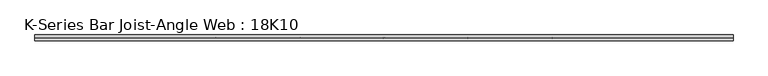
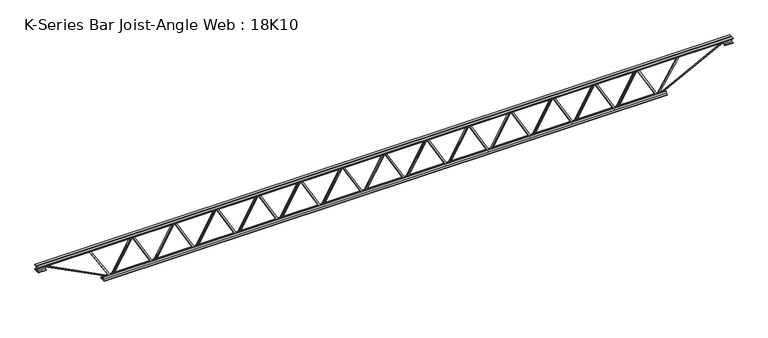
"""IFC4 building model written with IfcOpenShell, lengths in millimetres: beam geometry, K-Series Bar Joist-Angle Web : 18K10."""

from ifc_helpers import new_model, si_unit, frame, origin, place, context, project, spatial, polyline, outline, extrude, faceted_brep, source, transform, mapped, element, save


def k_series_bar_joist_angle_web_18k10_34ad709c(model_context):
    return source(origin(), model_context, "Body", "SolidModel", [
        extrude(outline(polyline([(-4.75, 4.7625), (-4.75, 0.0), (-17.45, 0.0), (-17.45, 4.7625), (-4.75, 4.7625)])), frame((2826.8572371, 0.0, -190.4), z_axis=(-0.4969814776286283, 0.0, 0.8677611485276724), x_axis=(0.0, -1.0, 0.0)), (0.0, 0.0, 1.0), 438.8304324),
        extrude(outline(polyline([(-225.325, 2858.7307692), (-206.275, 2858.7307692), (-206.275, 2857.9021635), (225.325, 2610.7175481), (225.325, 2592.4961538), (206.275, 2592.4961538), (206.275, 2599.6747596), (-225.325, 2846.859375), (-225.325, 2858.7307692)])), frame((0.0, 0.0, 0.0), z_axis=(0.0, 1.0, 0.0), x_axis=(0.0, 0.0, 1.0)), (0.0, 0.0, 1.0), 4.75),
        faceted_brep([(2338.9615385, 0.0, -206.275), (2338.9615385, 0.0, -225.325), (2338.9615385, -4.75, -225.325), (2338.9615385, -4.75, -206.275), (2339.7901442, 0.0, -206.275), (2586.9747596, 0.0, 225.325), (2605.1961538, 0.0, 225.325), (2605.1961538, 0.0, 206.275), (2598.0175481, 0.0, 206.275), (2350.8329327, 0.0, -225.325), (2350.8329327, -4.75, -225.325), (2370.8350706, -4.75, -190.4), (2366.7023581, -4.75, -188.0331257), (2584.7929548, -4.75, 192.7668743), (2588.9256673, -4.75, 190.4), (2598.0175481, -4.75, 206.275), (2605.1961538, -4.75, 206.275), (2605.1961538, -4.75, 225.325), (2586.9747596, -4.75, 225.325), (2339.7901442, -4.75, -206.275), (2588.9256673, -17.4625, 190.4), (2370.8350706, -17.4625, -190.4), (2366.7023581, -17.4625, -188.0331257), (2584.7929548, -17.4625, 192.7668743)], [[[0, 1, 2, 3]], [[1, 0, 4, 5, 6, 7, 8, 9]], [[2, 1, 9, 10]], [[3, 2, 10, 11, 12, 13, 14, 15, 16, 17, 18, 19]], [[0, 3, 19, 4]], [[9, 8, 15, 14, 20, 21, 11, 10]], [[5, 4, 19, 18]], [[7, 6, 17, 16]], [[8, 7, 16, 15]], [[6, 5, 18, 17]], [[21, 22, 12, 11]], [[20, 14, 13, 23]], [[22, 21, 20, 23]], [[12, 22, 23, 13]]]),
        extrude(outline(polyline([(-4.75, 4.7624999), (-4.75, 0.0), (-17.45, 0.0), (-17.45, 4.7624999), (-4.75, 4.7624999)])), frame((2307.0880064, 0.0, -190.4), z_axis=(-0.4969814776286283, 0.0, 0.8677611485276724), x_axis=(0.0, -1.0, 0.0)), (0.0, 0.0, 1.0), 438.8304324),
        extrude(outline(polyline([(-225.325, 2338.9615385), (-206.275, 2338.9615385), (-206.275, 2338.1329327), (225.325, 2090.9483173), (225.325, 2072.7269231), (206.275, 2072.7269231), (206.275, 2079.9055288), (-225.325, 2327.0901442), (-225.325, 2338.9615385)])), frame((0.0, 0.0, 0.0), z_axis=(0.0, 1.0, 0.0), x_axis=(0.0, 0.0, 1.0)), (0.0, 0.0, 1.0), 4.75),
        faceted_brep([(1819.1923077, 0.0, -206.275), (1819.1923077, 0.0, -225.325), (1819.1923077, -4.75, -225.325), (1819.1923077, -4.75, -206.275), (1820.0209134, 0.0, -206.275), (2067.2055288, 0.0, 225.325), (2085.4269231, 0.0, 225.325), (2085.4269231, 0.0, 206.275), (2078.2483173, 0.0, 206.275), (1831.063702, 0.0, -225.325), (1831.063702, -4.75, -225.325), (1851.0658398, -4.75, -190.4), (1846.9331273, -4.75, -188.0331257), (2065.023724, -4.75, 192.7668743), (2069.1564365, -4.75, 190.4), (2078.2483173, -4.75, 206.275), (2085.4269231, -4.75, 206.275), (2085.4269231, -4.75, 225.325), (2067.2055288, -4.75, 225.325), (1820.0209134, -4.75, -206.275), (2069.1564365, -17.4625, 190.4), (1851.0658398, -17.4625, -190.4), (1846.9331273, -17.4625, -188.0331257), (2065.023724, -17.4625, 192.7668743)], [[[0, 1, 2, 3]], [[1, 0, 4, 5, 6, 7, 8, 9]], [[2, 1, 9, 10]], [[3, 2, 10, 11, 12, 13, 14, 15, 16, 17, 18, 19]], [[0, 3, 19, 4]], [[9, 8, 15, 14, 20, 21, 11, 10]], [[5, 4, 19, 18]], [[7, 6, 17, 16]], [[8, 7, 16, 15]], [[6, 5, 18, 17]], [[21, 22, 12, 11]], [[20, 14, 13, 23]], [[22, 21, 20, 23]], [[12, 22, 23, 13]]]),
        extrude(outline(polyline([(-4.75, 4.7625), (-4.75, 0.0), (-17.45, 0.0), (-17.45, 4.7625), (-4.75, 4.7625)])), frame((1787.3187756, 0.0, -190.4), z_axis=(-0.4969814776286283, 0.0, 0.8677611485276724), x_axis=(0.0, -1.0, 0.0)), (0.0, 0.0, 1.0), 438.8304324),
        extrude(outline(polyline([(-225.325, 1819.1923077), (-206.275, 1819.1923077), (-206.275, 1818.363702), (225.325, 1571.1790866), (225.325, 1552.9576923), (206.275, 1552.9576923), (206.275, 1560.136298), (-225.325, 1807.3209134), (-225.325, 1819.1923077)])), frame((0.0, 0.0, 0.0), z_axis=(0.0, 1.0, 0.0), x_axis=(0.0, 0.0, 1.0)), (0.0, 0.0, 1.0), 4.75),
        faceted_brep([(1299.4230769, 0.0, -206.275), (1299.4230769, 0.0, -225.325), (1299.4230769, -4.75, -225.325), (1299.4230769, -4.75, -206.275), (1300.2516827, 0.0, -206.275), (1547.436298, 0.0, 225.325), (1565.6576923, 0.0, 225.325), (1565.6576923, 0.0, 206.275), (1558.4790866, 0.0, 206.275), (1311.2944712, 0.0, -225.325), (1311.2944712, -4.75, -225.325), (1331.296609, -4.75, -190.4), (1327.1638966, -4.75, -188.0331257), (1545.2544933, -4.75, 192.7668743), (1549.3872057, -4.75, 190.4), (1558.4790866, -4.75, 206.275), (1565.6576923, -4.75, 206.275), (1565.6576923, -4.75, 225.325), (1547.436298, -4.75, 225.325), (1300.2516827, -4.75, -206.275), (1549.3872057, -17.4625, 190.4), (1331.296609, -17.4625, -190.4), (1327.1638966, -17.4625, -188.0331257), (1545.2544933, -17.4625, 192.7668743)], [[[0, 1, 2, 3]], [[1, 0, 4, 5, 6, 7, 8, 9]], [[2, 1, 9, 10]], [[3, 2, 10, 11, 12, 13, 14, 15, 16, 17, 18, 19]], [[0, 3, 19, 4]], [[9, 8, 15, 14, 20, 21, 11, 10]], [[5, 4, 19, 18]], [[7, 6, 17, 16]], [[8, 7, 16, 15]], [[6, 5, 18, 17]], [[21, 22, 12, 11]], [[20, 14, 13, 23]], [[22, 21, 20, 23]], [[12, 22, 23, 13]]]),
        extrude(outline(polyline([(-4.75, 4.7625), (-4.75, 0.0), (-17.45, 0.0), (-17.45, 4.7625), (-4.75, 4.7625)])), frame((1267.5495448, 0.0, -190.4), z_axis=(-0.4969814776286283, 0.0, 0.8677611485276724), x_axis=(0.0, -1.0, 0.0)), (0.0, 0.0, 1.0), 438.8304324),
        extrude(outline(polyline([(-225.325, 1299.4230769), (-206.275, 1299.4230769), (-206.275, 1298.5944712), (225.325, 1051.4098558), (225.325, 1033.1884615), (206.275, 1033.1884615), (206.275, 1040.3670673), (-225.325, 1287.5516827), (-225.325, 1299.4230769)])), frame((0.0, 0.0, 0.0), z_axis=(0.0, 1.0, 0.0), x_axis=(0.0, 0.0, 1.0)), (0.0, 0.0, 1.0), 4.75),
        faceted_brep([(779.6538462, 0.0, -206.275), (779.6538462, 0.0, -225.325), (779.6538462, -4.75, -225.325), (779.6538462, -4.75, -206.275), (780.4824519, 0.0, -206.275), (1027.6670673, 0.0, 225.325), (1045.8884615, 0.0, 225.325), (1045.8884615, 0.0, 206.275), (1038.7098558, 0.0, 206.275), (791.5252404, 0.0, -225.325), (791.5252404, -4.75, -225.325), (811.5273783, -4.75, -190.4), (807.3946658, -4.75, -188.0331257), (1025.4852625, -4.75, 192.7668743), (1029.617975, -4.75, 190.4), (1038.7098558, -4.75, 206.275), (1045.8884615, -4.75, 206.275), (1045.8884615, -4.75, 225.325), (1027.6670673, -4.75, 225.325), (780.4824519, -4.75, -206.275), (1029.617975, -17.4625, 190.4), (811.5273783, -17.4625, -190.4), (807.3946658, -17.4625, -188.0331257), (1025.4852625, -17.4625, 192.7668743)], [[[0, 1, 2, 3]], [[1, 0, 4, 5, 6, 7, 8, 9]], [[2, 1, 9, 10]], [[3, 2, 10, 11, 12, 13, 14, 15, 16, 17, 18, 19]], [[0, 3, 19, 4]], [[9, 8, 15, 14, 20, 21, 11, 10]], [[5, 4, 19, 18]], [[7, 6, 17, 16]], [[8, 7, 16, 15]], [[6, 5, 18, 17]], [[21, 22, 12, 11]], [[20, 14, 13, 23]], [[22, 21, 20, 23]], [[12, 22, 23, 13]]]),
        extrude(outline(polyline([(-4.75, 4.7624999), (-4.75, 0.0), (-17.45, 0.0), (-17.45, 4.7624999), (-4.75, 4.7624999)])), frame((747.7803141, 0.0, -190.4), z_axis=(-0.4969814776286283, 0.0, 0.8677611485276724), x_axis=(0.0, -1.0, 0.0)), (0.0, 0.0, 1.0), 438.8304324),
        extrude(outline(polyline([(-225.325, 779.6538462), (-206.275, 779.6538462), (-206.275, 778.8252404), (225.325, 531.640625), (225.325, 513.4192308), (206.275, 513.4192308), (206.275, 520.5978365), (-225.325, 767.7824519), (-225.325, 779.6538462)])), frame((0.0, 0.0, 0.0), z_axis=(0.0, 1.0, 0.0), x_axis=(0.0, 0.0, 1.0)), (0.0, 0.0, 1.0), 4.75),
        faceted_brep([(259.8846154, 0.0, -206.275), (259.8846154, 0.0, -225.325), (259.8846154, -4.75, -225.325), (259.8846154, -4.75, -206.275), (260.7132211, 0.0, -206.275), (507.8978365, 0.0, 225.325), (526.1192308, 0.0, 225.325), (526.1192308, 0.0, 206.275), (518.940625, 0.0, 206.275), (271.7560096, 0.0, -225.325), (271.7560096, -4.75, -225.325), (291.7581475, -4.75, -190.4), (287.625435, -4.75, -188.0331257), (505.7160317, -4.75, 192.7668743), (509.8487442, -4.75, 190.4), (518.940625, -4.75, 206.275), (526.1192308, -4.75, 206.275), (526.1192308, -4.75, 225.325), (507.8978365, -4.75, 225.325), (260.7132211, -4.75, -206.275), (509.8487442, -17.4625, 190.4), (291.7581475, -17.4625, -190.4), (287.625435, -17.4625, -188.0331257), (505.7160317, -17.4625, 192.7668743)], [[[0, 1, 2, 3]], [[1, 0, 4, 5, 6, 7, 8, 9]], [[2, 1, 9, 10]], [[3, 2, 10, 11, 12, 13, 14, 15, 16, 17, 18, 19]], [[0, 3, 19, 4]], [[9, 8, 15, 14, 20, 21, 11, 10]], [[5, 4, 19, 18]], [[7, 6, 17, 16]], [[8, 7, 16, 15]], [[6, 5, 18, 17]], [[21, 22, 12, 11]], [[20, 14, 13, 23]], [[22, 21, 20, 23]], [[12, 22, 23, 13]]]),
        extrude(outline(polyline([(-4.75, 4.7625), (-4.75, 0.0), (-17.45, 0.0), (-17.45, 4.7625), (-4.75, 4.7625)])), frame((228.0110833, 0.0, -190.4), z_axis=(-0.4969814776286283, 0.0, 0.8677611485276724), x_axis=(0.0, -1.0, 0.0)), (0.0, 0.0, 1.0), 438.8304324),
        extrude(outline(polyline([(-225.325, 259.8846154), (-206.275, 259.8846154), (-206.275, 259.0560096), (225.325, 11.8713943), (225.325, -6.35), (206.275, -6.35), (206.275, 0.8286057), (-225.325, 248.0132211), (-225.325, 259.8846154)])), frame((0.0, 0.0, 0.0), z_axis=(0.0, 1.0, 0.0), x_axis=(0.0, 0.0, 1.0)), (0.0, 0.0, 1.0), 4.75),
        faceted_brep([(-259.8846154, 0.0, -206.275), (-259.8846154, 0.0, -225.325), (-259.8846154, -4.75, -225.325), (-259.8846154, -4.75, -206.275), (-259.0560096, 0.0, -206.275), (-11.8713943, 0.0, 225.325), (6.35, 0.0, 225.325), (6.35, 0.0, 206.275), (-0.8286057, 0.0, 206.275), (-248.0132211, 0.0, -225.325), (-248.0132211, -4.75, -225.325), (-228.0110833, -4.75, -190.4), (-232.1437958, -4.75, -188.0331257), (-14.053199, -4.75, 192.7668743), (-9.9204866, -4.75, 190.4), (-0.8286057, -4.75, 206.275), (6.35, -4.75, 206.275), (6.35, -4.75, 225.325), (-11.8713943, -4.75, 225.325), (-259.0560096, -4.75, -206.275), (-9.9204866, -17.4625, 190.4), (-228.0110833, -17.4625, -190.4), (-232.1437958, -17.4625, -188.0331257), (-14.053199, -17.4625, 192.7668743)], [[[0, 1, 2, 3]], [[1, 0, 4, 5, 6, 7, 8, 9]], [[2, 1, 9, 10]], [[3, 2, 10, 11, 12, 13, 14, 15, 16, 17, 18, 19]], [[0, 3, 19, 4]], [[9, 8, 15, 14, 20, 21, 11, 10]], [[5, 4, 19, 18]], [[7, 6, 17, 16]], [[8, 7, 16, 15]], [[6, 5, 18, 17]], [[21, 22, 12, 11]], [[20, 14, 13, 23]], [[22, 21, 20, 23]], [[12, 22, 23, 13]]]),
        extrude(outline(polyline([(-4.75, 4.7625), (-4.75, 0.0), (-17.45, 0.0), (-17.45, 4.7625), (-4.75, 4.7625)])), frame((-291.7581475, 0.0, -190.4), z_axis=(-0.4969814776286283, 0.0, 0.8677611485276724), x_axis=(0.0, -1.0, 0.0)), (0.0, 0.0, 1.0), 438.8304324),
        extrude(outline(polyline([(-225.325, -259.8846154), (-206.275, -259.8846154), (-206.275, -260.7132211), (225.325, -507.8978365), (225.325, -526.1192308), (206.275, -526.1192308), (206.275, -518.940625), (-225.325, -271.7560096), (-225.325, -259.8846154)])), frame((0.0, 0.0, 0.0), z_axis=(0.0, 1.0, 0.0), x_axis=(0.0, 0.0, 1.0)), (0.0, 0.0, 1.0), 4.75),
        faceted_brep([(-779.6538462, 0.0, -206.275), (-779.6538462, 0.0, -225.325), (-779.6538462, -4.75, -225.325), (-779.6538462, -4.75, -206.275), (-778.8252404, 0.0, -206.275), (-531.640625, 0.0, 225.325), (-513.4192308, 0.0, 225.325), (-513.4192308, 0.0, 206.275), (-520.5978365, 0.0, 206.275), (-767.7824519, 0.0, -225.325), (-767.7824519, -4.75, -225.325), (-747.7803141, -4.75, -190.4), (-751.9130265, -4.75, -188.0331257), (-533.8224298, -4.75, 192.7668743), (-529.6897173, -4.75, 190.4), (-520.5978365, -4.75, 206.275), (-513.4192308, -4.75, 206.275), (-513.4192308, -4.75, 225.325), (-531.640625, -4.75, 225.325), (-778.8252404, -4.75, -206.275), (-529.6897173, -17.4625, 190.4), (-747.7803141, -17.4625, -190.4), (-751.9130265, -17.4625, -188.0331257), (-533.8224298, -17.4625, 192.7668743)], [[[0, 1, 2, 3]], [[1, 0, 4, 5, 6, 7, 8, 9]], [[2, 1, 9, 10]], [[3, 2, 10, 11, 12, 13, 14, 15, 16, 17, 18, 19]], [[0, 3, 19, 4]], [[9, 8, 15, 14, 20, 21, 11, 10]], [[5, 4, 19, 18]], [[7, 6, 17, 16]], [[8, 7, 16, 15]], [[6, 5, 18, 17]], [[21, 22, 12, 11]], [[20, 14, 13, 23]], [[22, 21, 20, 23]], [[12, 22, 23, 13]]]),
        extrude(outline(polyline([(-4.75, 4.7625), (-4.75, 0.0), (-17.45, 0.0), (-17.45, 4.7625), (-4.75, 4.7625)])), frame((-811.5273783, 0.0, -190.4), z_axis=(-0.4969814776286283, 0.0, 0.8677611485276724), x_axis=(0.0, -1.0, 0.0)), (0.0, 0.0, 1.0), 438.8304324),
        extrude(outline(polyline([(-225.325, -779.6538462), (-206.275, -779.6538462), (-206.275, -780.4824519), (225.325, -1027.6670673), (225.325, -1045.8884615), (206.275, -1045.8884615), (206.275, -1038.7098558), (-225.325, -791.5252404), (-225.325, -779.6538462)])), frame((0.0, 0.0, 0.0), z_axis=(0.0, 1.0, 0.0), x_axis=(0.0, 0.0, 1.0)), (0.0, 0.0, 1.0), 4.75),
        faceted_brep([(-1299.4230769, 0.0, -206.275), (-1299.4230769, 0.0, -225.325), (-1299.4230769, -4.75, -225.325), (-1299.4230769, -4.75, -206.275), (-1298.5944712, 0.0, -206.275), (-1051.4098558, 0.0, 225.325), (-1033.1884615, 0.0, 225.325), (-1033.1884615, 0.0, 206.275), (-1040.3670673, 0.0, 206.275), (-1287.5516827, 0.0, -225.325), (-1287.5516827, -4.75, -225.325), (-1267.5495448, -4.75, -190.4), (-1271.6822573, -4.75, -188.0331257), (-1053.5916606, -4.75, 192.7668743), (-1049.4589481, -4.75, 190.4), (-1040.3670673, -4.75, 206.275), (-1033.1884615, -4.75, 206.275), (-1033.1884615, -4.75, 225.325), (-1051.4098558, -4.75, 225.325), (-1298.5944712, -4.75, -206.275), (-1049.4589481, -17.4625, 190.4), (-1267.5495448, -17.4625, -190.4), (-1271.6822573, -17.4625, -188.0331257), (-1053.5916606, -17.4625, 192.7668743)], [[[0, 1, 2, 3]], [[1, 0, 4, 5, 6, 7, 8, 9]], [[2, 1, 9, 10]], [[3, 2, 10, 11, 12, 13, 14, 15, 16, 17, 18, 19]], [[0, 3, 19, 4]], [[9, 8, 15, 14, 20, 21, 11, 10]], [[5, 4, 19, 18]], [[7, 6, 17, 16]], [[8, 7, 16, 15]], [[6, 5, 18, 17]], [[21, 22, 12, 11]], [[20, 14, 13, 23]], [[22, 21, 20, 23]], [[12, 22, 23, 13]]]),
        extrude(outline(polyline([(-4.75, 4.7624999), (-4.75, 0.0), (-17.45, 0.0), (-17.45, 4.7624999), (-4.75, 4.7624999)])), frame((-1331.296609, 0.0, -190.4), z_axis=(-0.4969814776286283, 0.0, 0.8677611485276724), x_axis=(0.0, -1.0, 0.0)), (0.0, 0.0, 1.0), 438.8304324),
        extrude(outline(polyline([(-225.325, -1299.4230769), (-206.275, -1299.4230769), (-206.275, -1300.2516827), (225.325, -1547.436298), (225.325, -1565.6576923), (206.275, -1565.6576923), (206.275, -1558.4790866), (-225.325, -1311.2944712), (-225.325, -1299.4230769)])), frame((0.0, 0.0, 0.0), z_axis=(0.0, 1.0, 0.0), x_axis=(0.0, 0.0, 1.0)), (0.0, 0.0, 1.0), 4.75),
        faceted_brep([(-1819.1923077, 0.0, -206.275), (-1819.1923077, 0.0, -225.325), (-1819.1923077, -4.75, -225.325), (-1819.1923077, -4.75, -206.275), (-1818.363702, 0.0, -206.275), (-1571.1790866, 0.0, 225.325), (-1552.9576923, 0.0, 225.325), (-1552.9576923, 0.0, 206.275), (-1560.136298, 0.0, 206.275), (-1807.3209134, 0.0, -225.325), (-1807.3209134, -4.75, -225.325), (-1787.3187756, -4.75, -190.4), (-1791.4514881, -4.75, -188.0331257), (-1573.3608914, -4.75, 192.7668743), (-1569.2281789, -4.75, 190.4), (-1560.136298, -4.75, 206.275), (-1552.9576923, -4.75, 206.275), (-1552.9576923, -4.75, 225.325), (-1571.1790866, -4.75, 225.325), (-1818.363702, -4.75, -206.275), (-1569.2281789, -17.4625, 190.4), (-1787.3187756, -17.4625, -190.4), (-1791.4514881, -17.4625, -188.0331257), (-1573.3608914, -17.4625, 192.7668743)], [[[0, 1, 2, 3]], [[1, 0, 4, 5, 6, 7, 8, 9]], [[2, 1, 9, 10]], [[3, 2, 10, 11, 12, 13, 14, 15, 16, 17, 18, 19]], [[0, 3, 19, 4]], [[9, 8, 15, 14, 20, 21, 11, 10]], [[5, 4, 19, 18]], [[7, 6, 17, 16]], [[8, 7, 16, 15]], [[6, 5, 18, 17]], [[21, 22, 12, 11]], [[20, 14, 13, 23]], [[22, 21, 20, 23]], [[12, 22, 23, 13]]]),
        extrude(outline(polyline([(-4.75, 4.7625), (-4.75, 0.0), (-17.45, 0.0), (-17.45, 4.7625), (-4.75, 4.7625)])), frame((-1851.0658398, 0.0, -190.4), z_axis=(-0.4969814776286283, 0.0, 0.8677611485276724), x_axis=(0.0, -1.0, 0.0)), (0.0, 0.0, 1.0), 438.8304324),
        extrude(outline(polyline([(-225.325, -1819.1923077), (-206.275, -1819.1923077), (-206.275, -1820.0209134), (225.325, -2067.2055288), (225.325, -2085.4269231), (206.275, -2085.4269231), (206.275, -2078.2483173), (-225.325, -1831.063702), (-225.325, -1819.1923077)])), frame((0.0, 0.0, 0.0), z_axis=(0.0, 1.0, 0.0), x_axis=(0.0, 0.0, 1.0)), (0.0, 0.0, 1.0), 4.75),
        faceted_brep([(-2338.9615385, 0.0, -206.275), (-2338.9615385, 0.0, -225.325), (-2338.9615385, -4.75, -225.325), (-2338.9615385, -4.75, -206.275), (-2338.1329327, 0.0, -206.275), (-2090.9483173, 0.0, 225.325), (-2072.7269231, 0.0, 225.325), (-2072.7269231, 0.0, 206.275), (-2079.9055288, 0.0, 206.275), (-2327.0901442, 0.0, -225.325), (-2327.0901442, -4.75, -225.325), (-2307.0880064, -4.75, -190.4), (-2311.2207188, -4.75, -188.0331257), (-2093.1301221, -4.75, 192.7668743), (-2088.9974097, -4.75, 190.4), (-2079.9055288, -4.75, 206.275), (-2072.7269231, -4.75, 206.275), (-2072.7269231, -4.75, 225.325), (-2090.9483173, -4.75, 225.325), (-2338.1329327, -4.75, -206.275), (-2088.9974097, -17.4625, 190.4), (-2307.0880064, -17.4625, -190.4), (-2311.2207188, -17.4625, -188.0331257), (-2093.1301221, -17.4625, 192.7668743)], [[[0, 1, 2, 3]], [[1, 0, 4, 5, 6, 7, 8, 9]], [[2, 1, 9, 10]], [[3, 2, 10, 11, 12, 13, 14, 15, 16, 17, 18, 19]], [[0, 3, 19, 4]], [[9, 8, 15, 14, 20, 21, 11, 10]], [[5, 4, 19, 18]], [[7, 6, 17, 16]], [[8, 7, 16, 15]], [[6, 5, 18, 17]], [[21, 22, 12, 11]], [[20, 14, 13, 23]], [[22, 21, 20, 23]], [[12, 22, 23, 13]]]),
        extrude(outline(polyline([(-4.75, 4.7625), (-4.75, 0.0), (-17.45, 0.0), (-17.45, 4.7625), (-4.75, 4.7625)])), frame((-2370.8350706, 0.0, -190.4), z_axis=(-0.4969814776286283, 0.0, 0.8677611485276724), x_axis=(0.0, -1.0, 0.0)), (0.0, 0.0, 1.0), 438.8304324),
        extrude(outline(polyline([(-225.325, -2338.9615385), (-206.275, -2338.9615385), (-206.275, -2339.7901442), (225.325, -2586.9747596), (225.325, -2605.1961538), (206.275, -2605.1961538), (206.275, -2598.0175481), (-225.325, -2350.8329327), (-225.325, -2338.9615385)])), frame((0.0, 0.0, 0.0), z_axis=(0.0, 1.0, 0.0), x_axis=(0.0, 0.0, 1.0)), (0.0, 0.0, 1.0), 4.75),
        faceted_brep([(-2858.7307692, 0.0, -206.275), (-2858.7307692, 0.0, -225.325), (-2858.7307692, -4.75, -225.325), (-2858.7307692, -4.75, -206.275), (-2857.9021635, 0.0, -206.275), (-2610.7175481, 0.0, 225.325), (-2592.4961538, 0.0, 225.325), (-2592.4961538, 0.0, 206.275), (-2599.6747596, 0.0, 206.275), (-2846.859375, 0.0, -225.325), (-2846.859375, -4.75, -225.325), (-2826.8572371, -4.75, -190.4), (-2830.9899496, -4.75, -188.0331257), (-2612.8993529, -4.75, 192.7668743), (-2608.7666404, -4.75, 190.4), (-2599.6747596, -4.75, 206.275), (-2592.4961538, -4.75, 206.275), (-2592.4961538, -4.75, 225.325), (-2610.7175481, -4.75, 225.325), (-2857.9021635, -4.75, -206.275), (-2608.7666404, -17.4625, 190.4), (-2826.8572371, -17.4625, -190.4), (-2830.9899496, -17.4625, -188.0331257), (-2612.8993529, -17.4625, 192.7668743)], [[[0, 1, 2, 3]], [[1, 0, 4, 5, 6, 7, 8, 9]], [[2, 1, 9, 10]], [[3, 2, 10, 11, 12, 13, 14, 15, 16, 17, 18, 19]], [[0, 3, 19, 4]], [[9, 8, 15, 14, 20, 21, 11, 10]], [[5, 4, 19, 18]], [[7, 6, 17, 16]], [[8, 7, 16, 15]], [[6, 5, 18, 17]], [[21, 22, 12, 11]], [[20, 14, 13, 23]], [[22, 21, 20, 23]], [[12, 22, 23, 13]]]),
        extrude(outline(polyline([(-4.75, 4.7625), (-4.75, 0.0), (-17.45, 0.0), (-17.45, 4.7625), (-4.75, 4.7625)])), frame((3346.6264679, 0.0, -190.4), z_axis=(-0.4969814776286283, 0.0, 0.8677611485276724), x_axis=(0.0, -1.0, 0.0)), (0.0, 0.0, 1.0), 438.8304324),
        extrude(outline(polyline([(-225.325, 3378.5), (-206.275, 3378.5), (-206.275, 3377.6713943), (225.325, 3130.4867789), (225.325, 3112.2653846), (206.275, 3112.2653846), (206.275, 3119.4439904), (-225.325, 3366.6286057), (-225.325, 3378.5)])), frame((0.0, 0.0, 0.0), z_axis=(0.0, 1.0, 0.0), x_axis=(0.0, 0.0, 1.0)), (0.0, 0.0, 1.0), 4.75),
        faceted_brep([(2858.7307692, 0.0, -206.275), (2858.7307692, 0.0, -225.325), (2858.7307692, -4.75, -225.325), (2858.7307692, -4.75, -206.275), (2859.559375, 0.0, -206.275), (3106.7439904, 0.0, 225.325), (3124.9653846, 0.0, 225.325), (3124.9653846, 0.0, 206.275), (3117.7867789, 0.0, 206.275), (2870.6021635, 0.0, -225.325), (2870.6021635, -4.75, -225.325), (2890.6043013, -4.75, -190.4), (2886.4715889, -4.75, -188.0331257), (3104.5621856, -4.75, 192.7668743), (3108.694898, -4.75, 190.4), (3117.7867789, -4.75, 206.275), (3124.9653846, -4.75, 206.275), (3124.9653846, -4.75, 225.325), (3106.7439904, -4.75, 225.325), (2859.559375, -4.75, -206.275), (3108.694898, -17.4625, 190.4), (2890.6043013, -17.4625, -190.4), (2886.4715889, -17.4625, -188.0331257), (3104.5621856, -17.4625, 192.7668743)], [[[0, 1, 2, 3]], [[1, 0, 4, 5, 6, 7, 8, 9]], [[2, 1, 9, 10]], [[3, 2, 10, 11, 12, 13, 14, 15, 16, 17, 18, 19]], [[0, 3, 19, 4]], [[9, 8, 15, 14, 20, 21, 11, 10]], [[5, 4, 19, 18]], [[7, 6, 17, 16]], [[8, 7, 16, 15]], [[6, 5, 18, 17]], [[21, 22, 12, 11]], [[20, 14, 13, 23]], [[22, 21, 20, 23]], [[12, 22, 23, 13]]]),
        extrude(outline(polyline([(-4.75, 4.7624999), (-4.75, 0.0), (-17.45, 0.0), (-17.45, 4.7624999), (-4.75, 4.7624999)])), frame((-2890.6043013, 0.0, -190.4), z_axis=(-0.4969814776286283, 0.0, 0.8677611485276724), x_axis=(0.0, -1.0, 0.0)), (0.0, 0.0, 1.0), 438.8304324),
        extrude(outline(polyline([(-225.325, -2858.7307692), (-206.275, -2858.7307692), (-206.275, -2859.559375), (225.325, -3106.7439904), (225.325, -3124.9653846), (206.275, -3124.9653846), (206.275, -3117.7867789), (-225.325, -2870.6021635), (-225.325, -2858.7307692)])), frame((0.0, 0.0, 0.0), z_axis=(0.0, 1.0, 0.0), x_axis=(0.0, 0.0, 1.0)), (0.0, 0.0, 1.0), 4.75),
        faceted_brep([(-3378.5, 0.0, -206.275), (-3378.5, 0.0, -225.325), (-3378.5, -4.75, -225.325), (-3378.5, -4.75, -206.275), (-3377.6713943, 0.0, -206.275), (-3130.4867789, 0.0, 225.325), (-3112.2653846, 0.0, 225.325), (-3112.2653846, 0.0, 206.275), (-3119.4439904, 0.0, 206.275), (-3366.6286057, 0.0, -225.325), (-3366.6286057, -4.75, -225.325), (-3346.6264679, -4.75, -190.4), (-3350.7591804, -4.75, -188.0331257), (-3132.6685837, -4.75, 192.7668743), (-3128.5358712, -4.75, 190.4), (-3119.4439904, -4.75, 206.275), (-3112.2653846, -4.75, 206.275), (-3112.2653846, -4.75, 225.325), (-3130.4867789, -4.75, 225.325), (-3377.6713943, -4.75, -206.275), (-3128.5358712, -17.4625, 190.4), (-3346.6264679, -17.4625, -190.4), (-3350.7591804, -17.4625, -188.0331257), (-3132.6685837, -17.4625, 192.7668743)], [[[0, 1, 2, 3]], [[1, 0, 4, 5, 6, 7, 8, 9]], [[2, 1, 9, 10]], [[3, 2, 10, 11, 12, 13, 14, 15, 16, 17, 18, 19]], [[0, 3, 19, 4]], [[9, 8, 15, 14, 20, 21, 11, 10]], [[5, 4, 19, 18]], [[7, 6, 17, 16]], [[8, 7, 16, 15]], [[6, 5, 18, 17]], [[21, 22, 12, 11]], [[20, 14, 13, 23]], [[22, 21, 20, 23]], [[12, 22, 23, 13]]]),
        extrude(outline(polyline([(4.75, 228.5), (36.75, 228.5), (36.75, 222.0), (11.25, 222.0), (11.25, 196.5), (4.75, 196.5), (4.75, 228.5)])), frame((-4292.5, 0.0, 0.0), z_axis=(1.0, 0.0, 0.0), x_axis=(0.0, 1.0, 0.0)), (0.0, 0.0, 1.0), 8585.0),
        extrude(outline(polyline([(-4.75, 228.5), (-4.75, 196.5), (-11.25, 196.5), (-11.25, 222.0), (-36.75, 222.0), (-36.75, 228.5), (-4.75, 228.5)])), frame((-4292.5, 0.0, 0.0), z_axis=(1.0, 0.0, 0.0), x_axis=(0.0, 1.0, 0.0)), (0.0, 0.0, 1.0), 8585.0),
        extrude(outline(polyline([(4.75, -228.5), (4.75, -196.5), (11.25, -196.5), (11.25, -222.0), (36.75, -222.0), (36.75, -228.5), (4.75, -228.5)])), frame((-3478.5, 0.0, 0.0), z_axis=(1.0, 0.0, 0.0), x_axis=(0.0, 1.0, 0.0)), (0.0, 0.0, 1.0), 6957.0),
        extrude(outline(polyline([(-4.75, -228.5), (-36.75, -228.5), (-36.75, -222.0), (-11.25, -222.0), (-11.25, -196.5), (-4.75, -196.5), (-4.75, -228.5)])), frame((-3478.5, 0.0, 0.0), z_axis=(1.0, 0.0, 0.0), x_axis=(0.0, 1.0, 0.0)), (0.0, 0.0, 1.0), 6957.0),
        extrude(outline(polyline([(4.75, 165.0), (4.75, 196.5), (11.25, 196.5), (11.25, 171.5), (36.75, 171.5), (36.75, 165.0), (4.75, 165.0)])), frame((4192.5, 0.0, 0.0), z_axis=(1.0, 0.0, 0.0), x_axis=(0.0, 1.0, 0.0)), (0.0, 0.0, 1.0), 100.0),
        extrude(outline(polyline([(-4.75, 165.0), (-36.75, 165.0), (-36.75, 171.5), (-11.25, 171.5), (-11.25, 196.5), (-4.75, 196.5), (-4.75, 165.0)])), frame((4192.5, 0.0, 0.0), z_axis=(1.0, 0.0, 0.0), x_axis=(0.0, 1.0, 0.0)), (0.0, 0.0, 1.0), 100.0),
        extrude(outline(polyline([(-4.75, 165.0), (-36.75, 165.0), (-36.75, 171.5), (-11.25, 171.5), (-11.25, 196.5), (-4.75, 196.5), (-4.75, 165.0)])), frame((-4292.5, 0.0, 0.0), z_axis=(1.0, 0.0, 0.0), x_axis=(0.0, 1.0, 0.0)), (0.0, 0.0, 1.0), 100.0),
        extrude(outline(polyline([(36.75, 165.0), (4.75, 165.0), (4.75, 196.5), (11.25, 196.5), (11.25, 171.5), (36.75, 171.5), (36.75, 165.0)])), frame((-4292.5, 0.0, 0.0), z_axis=(1.0, 0.0, 0.0), x_axis=(0.0, 1.0, 0.0)), (0.0, 0.0, 1.0), 100.0),
        extrude(outline(polyline([(219.4566712, -3658.3417582), (200.4066712, -3658.3417582), (200.4066712, -3650.6797887), (-226.909493, -3386.1895398), (-216.8835011, -3369.9913304), (219.4566712, -3640.0670506), (219.4566712, -3658.3417582)])), frame((0.0, 0.0, 0.0), z_axis=(0.0, 1.0, 0.0), x_axis=(0.0, 0.0, 1.0)), (0.0, 0.0, 1.0), 4.7625),
        extrude(outline(polyline([(-4.7625, -10.5646146), (-4.7625, 8.4853853), (0.0, 8.4853853), (0.0, -10.5646146), (-4.7625, -10.5646146)])), frame((3378.5, 0.0, -222.15), z_axis=(0.5274110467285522, 0.0, 0.8496102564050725), x_axis=(0.0, -1.0, 0.0)), (0.0, 0.0, 1.0), 492.7553509),
        extrude(outline(polyline([(-226.3740718, -3380.672491), (-217.9259282, -3376.327509), (201.25, -4191.3500948), (201.25, -4292.5), (191.75, -4292.5), (191.75, -4193.6499052), (-226.3740718, -3380.672491)])), frame((0.0, -4.75, 0.0), z_axis=(0.0, 1.0, 0.0), x_axis=(0.0, 0.0, 1.0)), (0.0, 0.0, 1.0), 9.5),
        extrude(outline(polyline([(0.0, -9.5), (0.0, 0.0), (915.3490168, 0.0), (915.3490168, -9.5), (0.0, -9.5)])), frame((4194.672491, -4.75, 192.2759282), z_axis=(-0.4573665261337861, 0.0, 0.8892782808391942), x_axis=(-0.8892782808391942, 0.0, -0.4573665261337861)), (0.0, 0.0, 1.0), 9.5),
    ])


if __name__ == "__main__":
    model = new_model("IFC4")
    model_context = context("Model", 3, world=origin())
    ifc_project = project(units=[si_unit("LENGTHUNIT", "METRE", prefix="MILLI")], contexts=[model_context])
    site = spatial("IfcSite", under=ifc_project)
    building = spatial("IfcBuilding", under=site)
    placement = place(None, origin())
    k_series_bar_joist_angle_web_18k10_shape = k_series_bar_joist_angle_web_18k10_34ad709c(model_context)
    element("IfcBeam", 1, ObjectType="K-Series Bar Joist-Angle Web : 18K10", at=placement, inside=building, context=model_context, shape_type="MappedRepresentation", body=[
        mapped(k_series_bar_joist_angle_web_18k10_shape, transform((0.0, 0.0, 0.0), x_axis=(1.0, 0.0, 0.0), y_axis=(0.0, 1.0, 0.0), z_axis=(0.0, 0.0, 1.0))),
    ])
    save(model, "model.ifc")
